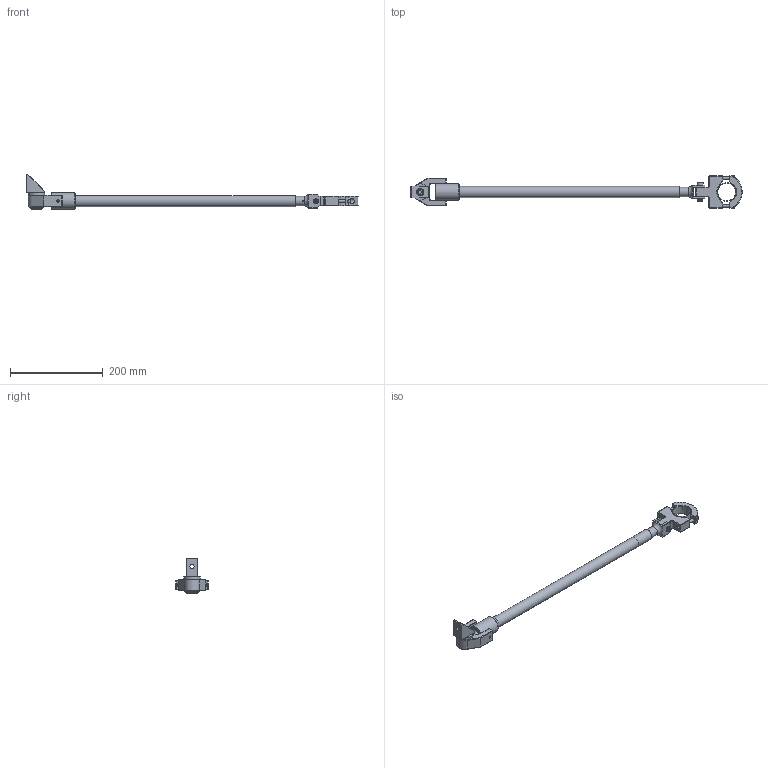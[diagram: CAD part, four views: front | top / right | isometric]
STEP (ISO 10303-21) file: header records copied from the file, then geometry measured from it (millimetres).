
FILE_DESCRIPTION( ( 'Unknown' ), '1' );
FILE_NAME( 'D:/dogabe/Industrie/Industrie 2005/05-14-2721 SCANROTOR/4-1200282_bras DMF 30_1500_3D/4-1200282_bras DMF 30_1500.stp', 'Unknown', ( 'Unknown' ), ( 'Unknown' ), 'PSStep 14.0', 'Unknown', ' ' );
FILE_SCHEMA( ( 'AUTOMOTIVE_DESIGN { 1 0 10303 214 1 1 1 1 }' ) );
Length unit declared in the file: millimetre
Products named in the file (29): Asm Pince pour DMF30; Placement; CHC M6x45 fileté sous tete; CHC M6x45 fileté sous tete-oa0; Collier; Pince pour DMF30; Tube 24 Lg 1500; Tube 19,2x20,8; Fourreau arrière; Tube 21x24 Lg 1500; Asm Pivot; Pivot S26; CHC M8x30; Chape équilibreur pour DMF30; CHC Epaulé M6-40; Chape de fixation DMF30; Spring retaining ring for 25 shaft; Jonc 14 Lg 1500; Tube 14,2x16-oa2; CHC Epaulé M6-25; H M06 Nyl; Chape avant; Jonc 14 Lg1500; Tube 19 Lg 1500; Tube 19,2x20,8-oa1; Tube 14,2x16; Tube 16,2x19 Lg 1500; Assem1; Equerre
Assembly tree (28 placements, depth 3):
  Assem1
    Equerre
    Asm Pivot
      Pivot S26
      CHC M8x30
    Chape équilibreur pour DMF30
      CHC Epaulé M6-40
      Chape de fixation DMF30
      Spring retaining ring for 25 shaft
    Asm Pince pour DMF30
      Placement
      CHC M6x45 fileté sous tete
      CHC M6x45 fileté sous tete-oa0
      Collier
      Pince pour DMF30
    Tube 24 Lg 1500
      Tube 19,2x20,8
      Fourreau arrière
      Tube 21x24 Lg 1500
    Tube 19 Lg 1500
      Tube 19,2x20,8-oa1
      Tube 14,2x16
      Tube 16,2x19 Lg 1500
    Jonc 14 Lg 1500
      Tube 14,2x16-oa2
      CHC Epaulé M6-25
      H M06 Nyl
      Chape avant
      Jonc 14 Lg1500
Bounding box: 715.79 x 70 x 75.25 mm (x, y, z)
Volume: 384609.4 mm3; surface area: 246584.4 mm2
Topology: 22 solids, 22 shells, 370 faces, 807 edges, 499 vertices
Faces by surface type: plane 253, cylinder 81, cone 31, torus 5
Full cylindrical faces by diameter (mm): 2 x2, 3.1 x2, 5 x4, 5.8 x2, 6 x5, 6.5 x2, 6.8 x2, 7 x2, 7.8 x1, 8 x8, 9 x2, 9.547 x1, 10 x2, 13 x3, 14 x3, 14.2 x2, 15 x2, 16 x2, 16.2 x1, 19 x1, 19.2 x2, 20 x1, 20.8 x2, 21 x1, 23.9 x1, 24 x1, 25 x3, 35 x1, 36 x1, 38 x1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
Entity records: 13479 total; most frequent: CARTESIAN_POINT 2351, DIRECTION 1645, ORIENTED_EDGE 1366, EDGE_CURVE 683, AXIS2_PLACEMENT_3D 593, EDGE_LOOP 534, VERTEX_POINT 461, LINE 459
